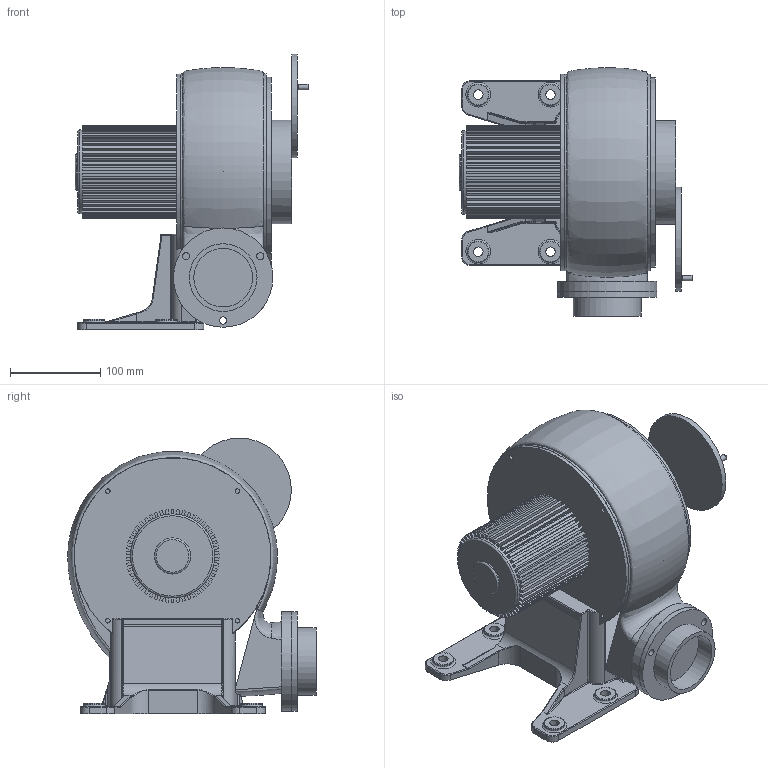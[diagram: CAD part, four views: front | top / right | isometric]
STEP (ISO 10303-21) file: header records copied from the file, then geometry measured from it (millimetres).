
FILE_DESCRIPTION(/* description */ ('Unknown'),/* implementation_level */ '2;1');
FILE_NAME(/* name */ '20200624 TS-300',/* time_stamp */ '2020-06-28T18:51:47+08:00',/* author */ ('å¤§èºè¨­è¨æéå¬å¸'),/* organization */ ('Unknown'),/* preprocessor_version */ 'ST-DEVELOPER v16.7',/* originating_system */ 'DEX',/* authorisation */ $);
FILE_SCHEMA (('AUTOMOTIVE_DESIGN {1 0 10303 214 3 1 1}'));
Length unit declared in the file: millimetre
Products named in the file (1): 20200624 TS-300
Bounding box: 259 x 275 x 305.61 mm (x, y, z)
Volume: 6862334.7 mm3; surface area: 385208.8 mm2
Topology: 1 solids, 1 shells, 422 faces, 1131 edges, 727 vertices
Faces by surface type: plane 262, cylinder 100, torus 33, bspline 16, cone 6, sphere 5
Full cylindrical faces by diameter (mm): 5 x8, 6 x1, 8 x3, 10.5 x4, 23.472 x4, 40 x1, 65 x1, 75 x1, 93 x1, 110 x2, 115 x2, 210.046 x1, 217.715 x1
Entity records: 16827 total; most frequent: CARTESIAN_POINT 6382, DIRECTION 2153, ORIENTED_EDGE 2150, EDGE_CURVE 1075, AXIS2_PLACEMENT_3D 751, VERTEX_POINT 721, LINE 651, VECTOR 651
